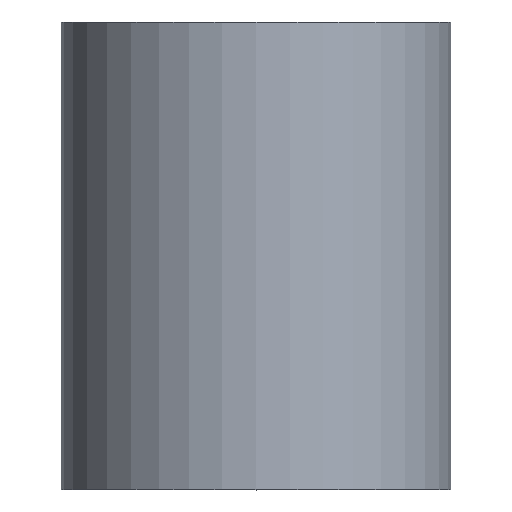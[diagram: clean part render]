
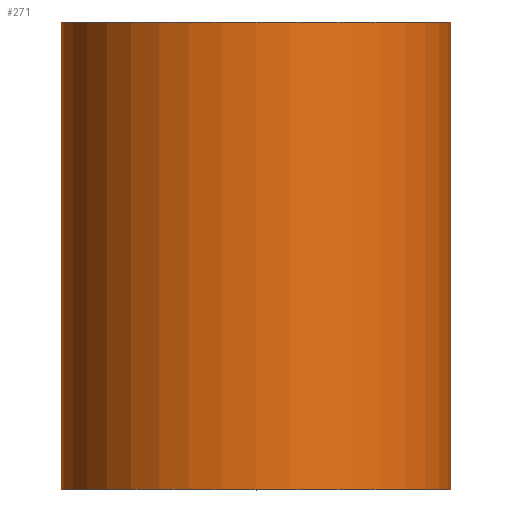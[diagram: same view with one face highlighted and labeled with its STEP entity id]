
A CAD part, top view. The second image highlights one B-rep face of the part: STEP entity #271.
In plain terms, the highlighted cylindrical face has radius 2.5 mm (diameter 5 mm), a partial arc.
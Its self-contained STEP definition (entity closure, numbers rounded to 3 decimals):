
#4 = DIRECTION ( 'NONE',  ( 0., 1., 0. ) ) ;
#5 = EDGE_CURVE ( 'NONE', #186, #20, #126, .T. ) ;
#9 = DIRECTION ( 'NONE',  ( -1., 0., 0. ) ) ;
#14 = DIRECTION ( 'NONE',  ( 0., 1., 0. ) ) ;
#20 = VERTEX_POINT ( 'NONE', #295 ) ;
#29 = CIRCLE ( 'NONE', #101, 2.5 ) ;
#36 = CARTESIAN_POINT ( 'NONE',  ( -2.5, 0., 0. ) ) ;
#71 = CARTESIAN_POINT ( 'NONE',  ( -2.5, 0., 0. ) ) ;
#81 = DIRECTION ( 'NONE',  ( 0., 1., 0. ) ) ;
#88 = ORIENTED_EDGE ( 'NONE', *, *, #5, .F. ) ;
#92 = CIRCLE ( 'NONE', #221, 2.5 ) ;
#101 = AXIS2_PLACEMENT_3D ( 'NONE', #179, #4, #263 ) ;
#113 = ORIENTED_EDGE ( 'NONE', *, *, #206, .F. ) ;
#126 = LINE ( 'NONE', #36, #161 ) ;
#129 = CARTESIAN_POINT ( 'NONE',  ( 0., 0., 0. ) ) ;
#136 = CYLINDRICAL_SURFACE ( 'NONE', #276, 2.5 ) ;
#143 = DIRECTION ( 'NONE',  ( -1., 0., 0. ) ) ;
#151 = DIRECTION ( 'NONE',  ( 0., 1., 0. ) ) ;
#153 = VERTEX_POINT ( 'NONE', #211 ) ;
#154 = CARTESIAN_POINT ( 'NONE',  ( 2.5, 0., 0. ) ) ;
#155 = EDGE_CURVE ( 'NONE', #186, #296, #92, .T. ) ;
#160 = FACE_OUTER_BOUND ( 'NONE', #217, .T. ) ;
#161 = VECTOR ( 'NONE', #14, 1000. ) ;
#170 = CARTESIAN_POINT ( 'NONE',  ( 0., 0., 0. ) ) ;
#173 = LINE ( 'NONE', #213, #275 ) ;
#179 = CARTESIAN_POINT ( 'NONE',  ( 0., 6., 0. ) ) ;
#186 = VERTEX_POINT ( 'NONE', #71 ) ;
#197 = EDGE_CURVE ( 'NONE', #296, #153, #173, .T. ) ;
#206 = EDGE_CURVE ( 'NONE', #20, #153, #29, .T. ) ;
#211 = CARTESIAN_POINT ( 'NONE',  ( 2.5, 6., 0. ) ) ;
#213 = CARTESIAN_POINT ( 'NONE',  ( 2.5, 0., 0. ) ) ;
#217 = EDGE_LOOP ( 'NONE', ( #243, #228, #113, #88 ) ) ;
#221 = AXIS2_PLACEMENT_3D ( 'NONE', #170, #299, #143 ) ;
#228 = ORIENTED_EDGE ( 'NONE', *, *, #197, .T. ) ;
#243 = ORIENTED_EDGE ( 'NONE', *, *, #155, .T. ) ;
#263 = DIRECTION ( 'NONE',  ( -1., 0., 0. ) ) ;
#271 = ADVANCED_FACE ( 'NONE', ( #160 ), #136, .T. ) ;
#275 = VECTOR ( 'NONE', #151, 1000. ) ;
#276 = AXIS2_PLACEMENT_3D ( 'NONE', #129, #81, #9 ) ;
#295 = CARTESIAN_POINT ( 'NONE',  ( -2.5, 6., 0. ) ) ;
#296 = VERTEX_POINT ( 'NONE', #154 ) ;
#299 = DIRECTION ( 'NONE',  ( 0., 1., 0. ) ) ;
